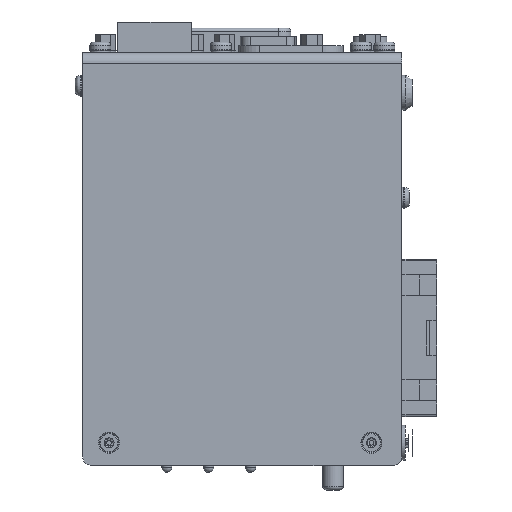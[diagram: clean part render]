
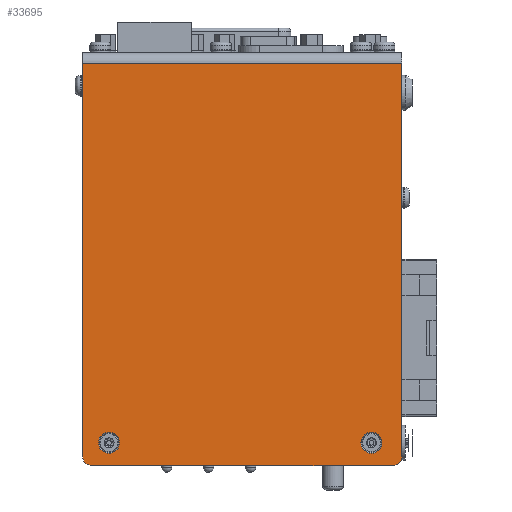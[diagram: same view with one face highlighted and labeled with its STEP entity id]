
A CAD part, left-side view. The second image highlights one B-rep face of the part: STEP entity #33695.
In plain terms, the highlighted planar face has unit normal (-1, 0, 0).
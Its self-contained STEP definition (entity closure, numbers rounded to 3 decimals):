
#1155=FACE_BOUND('',#12440,.T.);
#1156=FACE_BOUND('',#12441,.T.);
#2265=PLANE('',#36247);
#5223=LINE('',#56424,#8249);
#5225=LINE('',#56427,#8251);
#5226=LINE('',#56428,#8252);
#5227=LINE('',#56430,#8253);
#8249=VECTOR('',#43972,10.);
#8251=VECTOR('',#43976,2.16);
#8252=VECTOR('',#43977,10.);
#8253=VECTOR('',#43978,2.16);
#10342=FACE_OUTER_BOUND('',#12439,.T.);
#12439=EDGE_LOOP('',(#29143,#29144,#29145,#29146,#29147,#29148));
#12440=EDGE_LOOP('',(#29149,#29150));
#12441=EDGE_LOOP('',(#29151,#29152));
#13516=CIRCLE('',#36245,2.5);
#13517=CIRCLE('',#36248,2.5);
#13518=CIRCLE('',#36249,3.);
#13519=CIRCLE('',#36250,3.);
#13520=CIRCLE('',#36251,3.);
#13521=CIRCLE('',#36252,3.);
#16261=VERTEX_POINT('',#56336);
#16274=VERTEX_POINT('',#56377);
#16289=VERTEX_POINT('',#56417);
#16290=VERTEX_POINT('',#56419);
#16291=VERTEX_POINT('',#56423);
#16292=VERTEX_POINT('',#56429);
#16293=VERTEX_POINT('',#56432);
#16294=VERTEX_POINT('',#56433);
#16295=VERTEX_POINT('',#56436);
#16296=VERTEX_POINT('',#56437);
#20640=EDGE_CURVE('',#16289,#16290,#13516,.T.);
#20642=EDGE_CURVE('',#16291,#16290,#5223,.T.);
#20644=EDGE_CURVE('',#16274,#16289,#5225,.T.);
#20645=EDGE_CURVE('',#16274,#16261,#5226,.T.);
#20646=EDGE_CURVE('',#16261,#16292,#5227,.T.);
#20647=EDGE_CURVE('',#16291,#16292,#13517,.T.);
#20648=EDGE_CURVE('',#16293,#16294,#13518,.T.);
#20649=EDGE_CURVE('',#16294,#16293,#13519,.T.);
#20650=EDGE_CURVE('',#16295,#16296,#13520,.T.);
#20651=EDGE_CURVE('',#16296,#16295,#13521,.T.);
#29143=ORIENTED_EDGE('',*,*,#20640,.F.);
#29144=ORIENTED_EDGE('',*,*,#20644,.F.);
#29145=ORIENTED_EDGE('',*,*,#20645,.T.);
#29146=ORIENTED_EDGE('',*,*,#20646,.T.);
#29147=ORIENTED_EDGE('',*,*,#20647,.F.);
#29148=ORIENTED_EDGE('',*,*,#20642,.T.);
#29149=ORIENTED_EDGE('',*,*,#20648,.T.);
#29150=ORIENTED_EDGE('',*,*,#20649,.T.);
#29151=ORIENTED_EDGE('',*,*,#20650,.T.);
#29152=ORIENTED_EDGE('',*,*,#20651,.T.);
#33695=ADVANCED_FACE('',(#10342,#1155,#1156),#2265,.T.);
#36245=AXIS2_PLACEMENT_3D('',#56420,#43967,#43968);
#36247=AXIS2_PLACEMENT_3D('',#56426,#43974,#43975);
#36248=AXIS2_PLACEMENT_3D('',#56431,#43979,#43980);
#36249=AXIS2_PLACEMENT_3D('',#56434,#43981,#43982);
#36250=AXIS2_PLACEMENT_3D('',#56435,#43983,#43984);
#36251=AXIS2_PLACEMENT_3D('',#56438,#43985,#43986);
#36252=AXIS2_PLACEMENT_3D('',#56439,#43987,#43988);
#43967=DIRECTION('center_axis',(1.,0.,0.));
#43968=DIRECTION('ref_axis',(0.,-0.707,-0.707));
#43972=DIRECTION('',(0.,-1.,0.));
#43974=DIRECTION('center_axis',(-1.,0.,0.));
#43975=DIRECTION('ref_axis',(0.,0.,1.));
#43976=DIRECTION('',(0.,0.,-1.));
#43977=DIRECTION('',(0.,1.,0.));
#43978=DIRECTION('',(0.,0.,-1.));
#43979=DIRECTION('center_axis',(1.,0.,0.));
#43980=DIRECTION('ref_axis',(0.,0.707,-0.707));
#43981=DIRECTION('center_axis',(1.,0.,0.));
#43982=DIRECTION('ref_axis',(0.,0.,1.));
#43983=DIRECTION('center_axis',(1.,0.,0.));
#43984=DIRECTION('ref_axis',(0.,0.,1.));
#43985=DIRECTION('center_axis',(1.,0.,0.));
#43986=DIRECTION('ref_axis',(0.,0.,1.));
#43987=DIRECTION('center_axis',(1.,0.,0.));
#43988=DIRECTION('ref_axis',(0.,0.,1.));
#56336=CARTESIAN_POINT('',(-42.75,45.6,-1.5));
#56377=CARTESIAN_POINT('',(-42.75,-45.6,-1.5));
#56417=CARTESIAN_POINT('',(-42.75,-45.6,-114.));
#56419=CARTESIAN_POINT('',(-42.75,-43.1,-116.5));
#56420=CARTESIAN_POINT('Origin',(-42.75,-43.1,-114.));
#56423=CARTESIAN_POINT('',(-42.75,43.1,-116.5));
#56424=CARTESIAN_POINT('',(-42.75,45.6,-116.5));
#56426=CARTESIAN_POINT('Origin',(-42.75,0.,-57.304));
#56427=CARTESIAN_POINT('',(-42.75,-45.6,5.286));
#56428=CARTESIAN_POINT('',(-42.75,0.,-1.5));
#56429=CARTESIAN_POINT('',(-42.75,45.6,-114.));
#56430=CARTESIAN_POINT('',(-42.75,45.6,5.286));
#56431=CARTESIAN_POINT('Origin',(-42.75,43.1,-114.));
#56432=CARTESIAN_POINT('',(-42.75,38.1,-107.));
#56433=CARTESIAN_POINT('',(-42.75,38.1,-113.));
#56434=CARTESIAN_POINT('Origin',(-42.75,38.1,-110.));
#56435=CARTESIAN_POINT('Origin',(-42.75,38.1,-110.));
#56436=CARTESIAN_POINT('',(-42.75,-36.9,-107.));
#56437=CARTESIAN_POINT('',(-42.75,-36.9,-113.));
#56438=CARTESIAN_POINT('Origin',(-42.75,-36.9,-110.));
#56439=CARTESIAN_POINT('Origin',(-42.75,-36.9,-110.));
